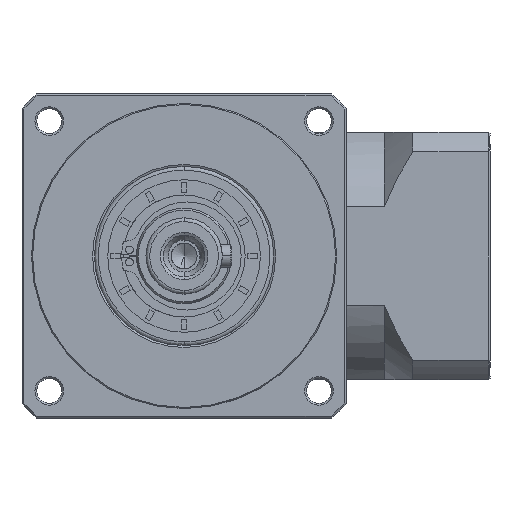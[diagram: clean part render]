
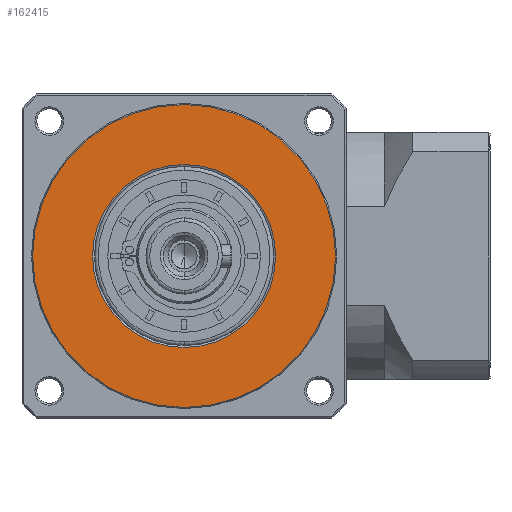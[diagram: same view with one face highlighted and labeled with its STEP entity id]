
A CAD part, left-side view. The second image highlights one B-rep face of the part: STEP entity #162415.
In plain terms, the highlighted planar face has unit normal (-1, 0, 0).
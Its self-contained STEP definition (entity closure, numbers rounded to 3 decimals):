
#2728 = EDGE_CURVE ( 'NONE', #60607, #102071, #112075, .T. ) ;
#4113 = AXIS2_PLACEMENT_3D ( 'NONE', #37076, #133369, #50917 ) ;
#14838 = EDGE_CURVE ( 'NONE', #102071, #60607, #163389, .T. ) ;
#33088 = CIRCLE ( 'NONE', #43941, 24. ) ;
#33958 = EDGE_LOOP ( 'NONE', ( #143629, #156139 ) ) ;
#35771 = CARTESIAN_POINT ( 'NONE',  ( -249.942, -91.835, -353.049 ) ) ;
#37076 = CARTESIAN_POINT ( 'NONE',  ( -249.942, -91.835, -353.049 ) ) ;
#38517 = CARTESIAN_POINT ( 'NONE',  ( -249.942, -52.124, -353.049 ) ) ;
#38970 = DIRECTION ( 'NONE',  ( 1., 0., 0. ) ) ;
#40221 = DIRECTION ( 'NONE',  ( 1., 0., 0. ) ) ;
#43941 = AXIS2_PLACEMENT_3D ( 'NONE', #121411, #38970, #135237 ) ;
#44102 = ORIENTED_EDGE ( 'NONE', *, *, #142720, .T. ) ;
#44572 = VERTEX_POINT ( 'NONE', #76975 ) ;
#50917 = DIRECTION ( 'NONE',  ( 0., 1., 0. ) ) ;
#51195 = DIRECTION ( 'NONE',  ( 1., 0., 0. ) ) ;
#52016 = DIRECTION ( 'NONE',  ( 0., 0., -1. ) ) ;
#57945 = AXIS2_PLACEMENT_3D ( 'NONE', #122642, #40221, #136469 ) ;
#60607 = VERTEX_POINT ( 'NONE', #38517 ) ;
#68227 = ORIENTED_EDGE ( 'NONE', *, *, #134399, .T. ) ;
#71617 = AXIS2_PLACEMENT_3D ( 'NONE', #133639, #51195, #147504 ) ;
#76157 = PLANE ( 'NONE',  #107175 ) ;
#76248 = EDGE_LOOP ( 'NONE', ( #44102, #68227 ) ) ;
#76975 = CARTESIAN_POINT ( 'NONE',  ( -249.942, -91.835, -377.049 ) ) ;
#88985 = VERTEX_POINT ( 'NONE', #134705 ) ;
#102071 = VERTEX_POINT ( 'NONE', #167670 ) ;
#107175 = AXIS2_PLACEMENT_3D ( 'NONE', #35771, #134494, #52016 ) ;
#112075 = CIRCLE ( 'NONE', #4113, 39.711 ) ;
#121411 = CARTESIAN_POINT ( 'NONE',  ( -249.942, -91.835, -353.049 ) ) ;
#122642 = CARTESIAN_POINT ( 'NONE',  ( -249.942, -91.835, -353.049 ) ) ;
#126540 = FACE_BOUND ( 'NONE', #76248, .T. ) ;
#133369 = DIRECTION ( 'NONE',  ( 1., 0., 0. ) ) ;
#133639 = CARTESIAN_POINT ( 'NONE',  ( -249.942, -91.835, -353.049 ) ) ;
#134399 = EDGE_CURVE ( 'NONE', #88985, #44572, #33088, .T. ) ;
#134494 = DIRECTION ( 'NONE',  ( -1., 0., 0. ) ) ;
#134705 = CARTESIAN_POINT ( 'NONE',  ( -249.942, -91.835, -329.049 ) ) ;
#135237 = DIRECTION ( 'NONE',  ( 0., 0., -1. ) ) ;
#136469 = DIRECTION ( 'NONE',  ( 0., 1., 0. ) ) ;
#142720 = EDGE_CURVE ( 'NONE', #44572, #88985, #154943, .T. ) ;
#143629 = ORIENTED_EDGE ( 'NONE', *, *, #2728, .F. ) ;
#147504 = DIRECTION ( 'NONE',  ( 0., 0., -1. ) ) ;
#154943 = CIRCLE ( 'NONE', #71617, 24. ) ;
#156139 = ORIENTED_EDGE ( 'NONE', *, *, #14838, .F. ) ;
#162415 = ADVANCED_FACE ( 'NONE', ( #167415, #126540 ), #76157, .T. ) ;
#163389 = CIRCLE ( 'NONE', #57945, 39.711 ) ;
#167415 = FACE_OUTER_BOUND ( 'NONE', #33958, .T. ) ;
#167670 = CARTESIAN_POINT ( 'NONE',  ( -249.942, -131.546, -353.049 ) ) ;
